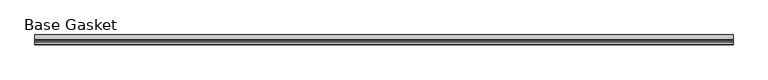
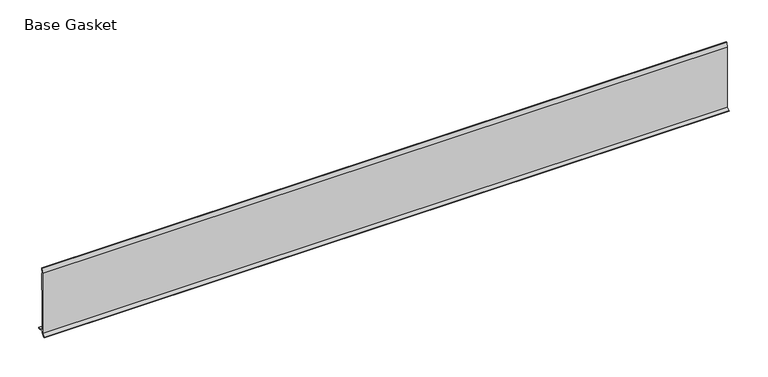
"""IFC4 building model written with IfcOpenShell, lengths in millimetres: furniture geometry, Gasket-Teknion-FHGB-AI_Healthcare-R2021 : Base Gasket."""

from ifc_helpers import new_model, si_unit, frame, origin, place, context, project, spatial, polyline, outline, extrude, source, transform, mapped, element, save


def base_gasket_ff9849c0(model_context):
    return source(origin(), model_context, "Body", "SweptSolid", [
        extrude(outline(polyline([(-3.7283812, 98.4568417), (-1.1891543, 104.587663), (-0.6755308, 105.2002997), (-0.6755308, 104.4162708), (-2.2043812, 98.4568417), (-2.2043812, 96.8693477), (-1.4106313, 96.8693477), (-1.4106313, 71.4693447), (-2.2043812, 71.4693447), (-2.2043812, 7.9398773), (6.2405171, 7.9398773), (6.2405171, 6.3818476), (-2.1334222, 6.3818476), (-2.2043812, 4.3498477), (-6.8281054, 0.3520979), (-7.8482342, 0.0), (-7.4222115, 0.6560174), (-3.7283812, 4.3498477), (-3.7283812, 98.4568417)])), frame((-1527.8982117, 0.0, 0.0), z_axis=(1.0, 0.0, 0.0), x_axis=(0.0, 1.0, 0.0)), (0.0, 0.0, 1.0), 1016.0),
    ])


if __name__ == "__main__":
    model = new_model("IFC4")
    model_context = context("Model", 3, world=origin())
    ifc_project = project(units=[si_unit("LENGTHUNIT", "METRE", prefix="MILLI")], contexts=[model_context])
    site = spatial("IfcSite", under=ifc_project)
    building = spatial("IfcBuilding", under=site)
    placement = place(None, origin())
    base_gasket_shape = base_gasket_ff9849c0(model_context)
    element("IfcFurniture", 1, ObjectType="Gasket-Teknion-FHGB-AI_Healthcare-R2021 : Base Gasket", at=placement, inside=building, context=model_context, shape_type="MappedRepresentation", body=[
        mapped(base_gasket_shape, transform((0.0, 0.0, 0.0), x_axis=(1.0, 0.0, 0.0), y_axis=(0.0, 1.0, 0.0), z_axis=(0.0, 0.0, 1.0))),
    ])
    save(model, "model.ifc")
